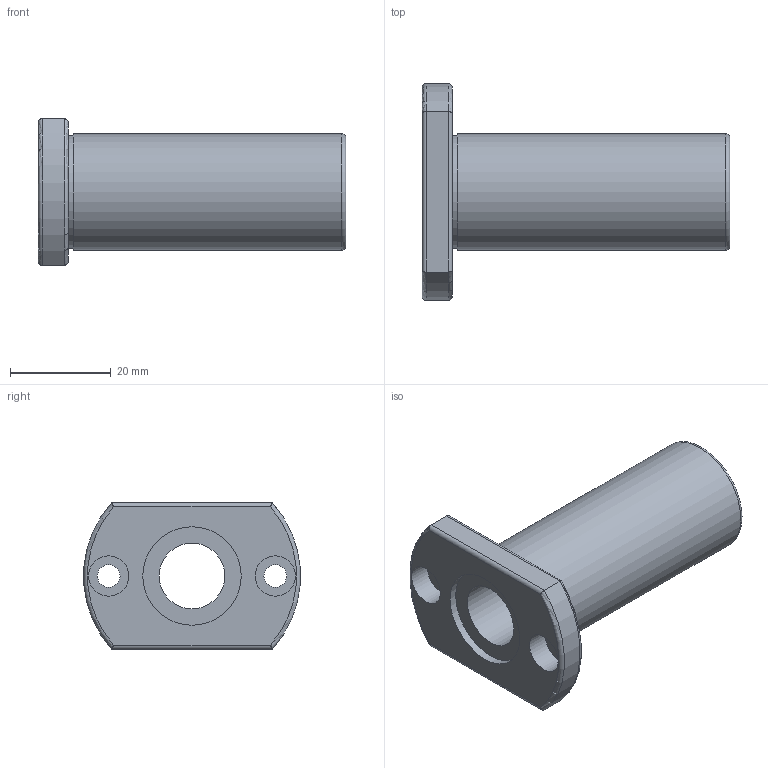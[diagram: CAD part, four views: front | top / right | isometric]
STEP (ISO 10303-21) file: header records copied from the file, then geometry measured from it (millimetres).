
FILE_DESCRIPTION( ( 'Unknown' ), '1' );
FILE_NAME( 'D:/累诀/己绕皋墨飘肺葱胶/11-04-06_档搁累己/01_府聪绢何教/LMH L/LMH 13L.stp', 'Unknown', ( 'Unknown' ), ( 'Unknown' ), 'PSStep 11.0', 'Unknown', ' ' );
FILE_SCHEMA( ( 'AUTOMOTIVE_DESIGN { 1 0 10303 214 1 1 1 1 }' ) );
Length unit declared in the file: millimetre
Products named in the file (1): 1
Bounding box: 61 x 42.85 x 29 mm (x, y, z)
Volume: 20531.8 mm3; surface area: 9448.3 mm2
Topology: 1 solids, 1 shells, 30 faces, 61 edges, 39 vertices
Faces by surface type: cylinder 15, plane 10, torus 5
Full cylindrical faces by diameter (mm): 4.5 x2, 8 x2, 13 x1, 19.507 x2, 22.4 x1, 23 x1
Entity records: 1014 total; most frequent: CARTESIAN_POINT 169, DIRECTION 128, ORIENTED_EDGE 94, AXIS2_PLACEMENT_3D 58, EDGE_LOOP 52, EDGE_CURVE 47, FACE_OUTER_BOUND 40, VERTEX_POINT 35
